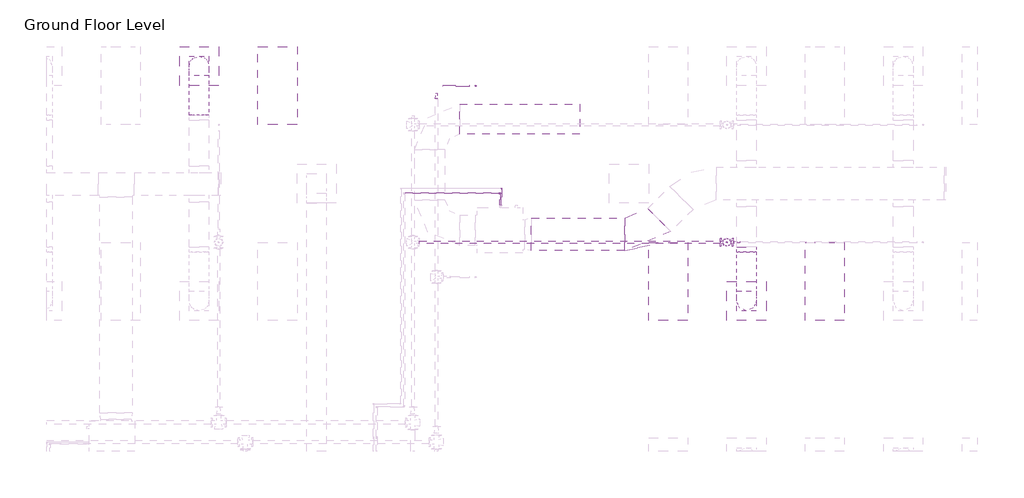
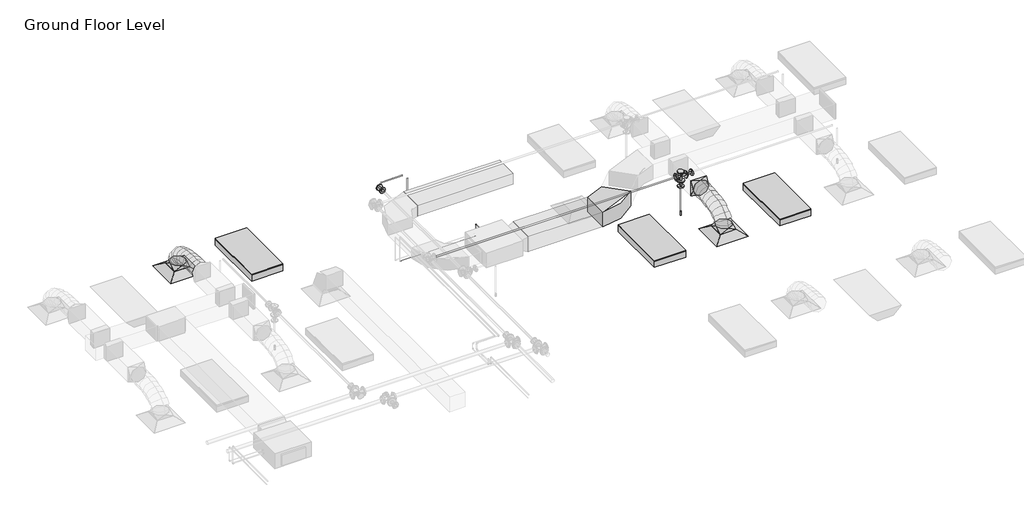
# One storey, part 72 of 74: 9 pipe segments, 8 pipe fittings, 4 duct fittings, 4 duct segments, 3 light fixtures, 2 air terminals, 2 fire suppression terminals.
"""IFC4 building model written with IfcOpenShell, lengths in millimetres."""

from ifc_helpers import new_model, si_unit, point, frame, frame_2d, origin, place, context, project, spatial, polyline, circle_curve, ellipse_curve, trimmed, segment, composite_curve, outline, extrude, transform, mapped, element, save
from ifc_brep_helpers import plane_surface, cylinder_surface, advanced_brep
from components import m_return_diffuser_600_x_600_face_300_x_300_connection_ff221211, m_rectangular_elbow_radius_1_5_w_acc56c25, m_rectangular_to_round_transition_angle_45_degree_641efff0, m_sprinkler_dry_pendent_hosted_15_mm_dry_pendent_9bda8e11, m_sprinkler_pendent_15_mm_pendent_06fcbd8e, m_troffer_light_parabolic_rectangular1_0600x1200mm_4_lamp_86473d4a, m_elbow_generic_standard_a088f956, m_elbow_generic_standard_2a704253, m_reducer_flanged_cs_class_150_standard_ccf252ad, m_tee_round_base_flanged_cs_class_150_standard_7e5987a1

model = new_model("IFC4")

# Units and contexts
model_context = context("Model", 3, world=origin())
ifc_project = project(units=[si_unit("LENGTHUNIT", "METRE", prefix="MILLI")], contexts=[model_context])

# Site, building, storey
site = spatial("IfcSite", under=ifc_project)
building = spatial("IfcBuilding", under=site)
storey = spatial("IfcBuildingStorey", under=building, Name="Ground Floor Level", Elevation=900.0)

# Air terminals
placement = place(None, origin())
m_return_diffuser_600_x_600_face_300_x_300_connection_shape = m_return_diffuser_600_x_600_face_300_x_300_connection_ff221211(model_context)
element("IfcAirTerminal", 1, ObjectType="M_Supply Diffuser : 600 x 600 Face 300 x 300 Connection", at=placement, inside=storey, context=model_context, shape_type="MappedRepresentation", body=[
    mapped(m_return_diffuser_600_x_600_face_300_x_300_connection_shape, transform((2362.7672395, 20535.2153534, 3650.0), x_axis=(1.0, 0.0, 0.0), y_axis=(0.0, 1.0, 0.0), z_axis=(0.0, 0.0, 1.0))),
])
element("IfcAirTerminal", 2, ObjectType="M_Supply Diffuser : 600 x 600 Face 300 x 300 Connection", at=placement, inside=storey, context=model_context, shape_type="MappedRepresentation", body=[
    mapped(m_return_diffuser_600_x_600_face_300_x_300_connection_shape, transform((10742.7672395, 16935.2153534, 3650.0), x_axis=(1.0, 0.0, 0.0), y_axis=(0.0, 1.0, 0.0), z_axis=(0.0, 0.0, 1.0))),
])

# Duct fittings
m_rectangular_elbow_radius_1_5_w_shape = m_rectangular_elbow_radius_1_5_w_acc56c25(model_context)
element("IfcDuctFitting", 3, ObjectType="M_Rectangular Elbow - Radius : 1.5 W", at=placement, inside=storey, context=model_context, shape_type="MappedRepresentation", body=[
    mapped(m_rectangular_elbow_radius_1_5_w_shape, transform((9187.6927358, 17956.1779527, 4100.0047224), x_axis=(0.9999999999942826, 0.0, -3.3815582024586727e-06), y_axis=(-9.063610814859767e-12, 0.9999999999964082, -2.680306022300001e-06), z_axis=(3.3815582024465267e-06, 2.6803060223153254e-06, 0.9999999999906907))),
])
m_rectangular_to_round_transition_angle_45_degree_shape = m_rectangular_to_round_transition_angle_45_degree_641efff0(model_context)
element("IfcDuctFitting", 4, ObjectType="M_Rectangular to Round Transition - Angle : 45 Degree", at=placement, inside=storey, context=model_context, shape_type="MappedRepresentation", body=[
    mapped(m_rectangular_to_round_transition_angle_45_degree_shape, transform((2362.7672395, 20535.2153534, 3751.6), x_axis=(0.0, 0.0, 1.0), y_axis=(-1.0, 0.0, 0.0), z_axis=(0.0, -1.0, 0.0))),
])
element("IfcDuctFitting", 5, ObjectType="M_Rectangular to Round Transition - Angle : 45 Degree", at=placement, inside=storey, context=model_context, shape_type="MappedRepresentation", body=[
    mapped(m_rectangular_to_round_transition_angle_45_degree_shape, transform((10742.7672395, 16935.2153534, 3751.6), x_axis=(0.0, 0.0, 1.0), y_axis=(-1.0, 0.0, 0.0), z_axis=(0.0, -1.0, 0.0))),
])
element("IfcDuctFitting", 6, ObjectType="M_Rectangular to Round Transition - Angle : 45 Degree", at=placement, inside=storey, context=model_context, shape_type="MappedRepresentation", body=[
    mapped(m_rectangular_to_round_transition_angle_45_degree_shape, transform((10742.7672395, 17762.5512847, 4100.0), x_axis=(0.0, -1.0, 0.0), y_axis=(1.0, 0.0, 0.0), z_axis=(0.0, 0.0, 1.0))),
])

# Duct segments
element("IfcDuctSegment", 7, ObjectType="Flex - Round", at=placement, inside=storey, context=model_context, shape_type="AdvancedBrep", body=[
    advanced_brep(
    [(2512.7672395, 20535.2153534, 3826.6), (2362.7672395, 20385.2153534, 3826.6), (2212.7672395, 20535.2153534, 3826.6), (2362.7672395, 20685.2153534, 3826.6), (2512.7672395, 20535.2153534, 3857.937778), (2362.7672395, 20385.2153534, 3832.2944744), (2212.7672395, 20535.2153534, 3857.937778), (2362.7672395, 20685.2153534, 3883.5810816), (2512.7672395, 20518.1993769, 3906.2506017), (2362.7672395, 20384.4614978, 3834.4348684), (2212.7672395, 20518.1993769, 3906.2506017), (2362.7672395, 20651.937256, 3978.0663351), (2512.7672395, 20471.0153769, 3968.7112406), (2362.7672395, 20366.8097489, 3857.8016772), (2212.7672395, 20471.0153769, 3968.7112406), (2362.7672395, 20575.2210049, 4079.6208039), (2512.7672395, 20399.4592477, 4016.0697935), (2362.7672395, 20330.5256195, 3881.8158865), (2212.7672395, 20399.4592477, 4016.0697935), (2362.7672395, 20468.3928758, 4150.3237004), (2512.7672395, 20309.3268835, 4050.4141374), (2362.7672395, 20265.7665876, 3906.4918893), (2212.7672395, 20309.3268835, 4050.4141374), (2362.7672395, 20352.8871794, 4194.3363855), (2512.7672395, 20206.4141786, 4073.8321493), (2362.7672395, 20179.8536975, 3926.0415559), (2212.7672395, 20206.4141786, 4073.8321493), (2362.7672395, 20232.9746597, 4221.6227426), (2512.7672395, 20096.5170273, 4088.411706), (2362.7672395, 20081.3665099, 3939.1074046), (2212.7672395, 20096.5170273, 4088.411706), (2362.7672395, 20111.6675446, 4237.7160075), (2512.7672395, 19985.4313238, 4096.2406846), (2362.7672395, 19977.9262951, 3946.3975526), (2212.7672395, 19985.4313238, 4096.2406846), (2362.7672395, 19992.9363525, 4246.0838166), (2512.7672395, 19878.9529624, 4099.406962), (2362.7672395, 19876.2616453, 3949.4206879), (2212.7672395, 19878.9529624, 4099.406962), (2362.7672395, 19881.6442795, 4249.3932362), (2512.7672395, 19782.8778373, 4099.9984152), (2362.7672395, 19783.8012427, 4249.9955729), (2212.7672395, 19782.8778373, 4099.9984152), (2362.7672395, 19781.9544319, 3950.0012575)],
    [
        (0, 1, circle_curve(frame((2362.7672395, 20535.2153534, 3826.6), z_axis=(0.0, 0.0, -1.0), x_axis=(1.0, 0.0, 0.0)), 150.0)),
        (1, 2, circle_curve(frame((2362.7672395, 20535.2153534, 3826.6), z_axis=(0.0, 0.0, -1.0), x_axis=(1.0, 0.0, 0.0)), 150.0)),
        (2, 3, circle_curve(frame((2362.7672395, 20535.2153534, 3826.6), z_axis=(0.0, 0.0, -1.0), x_axis=(1.0, 0.0, 0.0)), 150.0)),
        (3, 0, circle_curve(frame((2362.7672395, 20535.2153534, 3826.6), z_axis=(0.0, 0.0, -1.0), x_axis=(1.0, 0.0, 0.0)), 150.0)),
        (0, 4),
        (4, 5, ellipse_curve(frame((2362.7672395, 20535.2153534, 3857.937778), z_axis=(0.0, 0.16851066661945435, -0.985699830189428), x_axis=(0.0, -0.985699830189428, -0.16851066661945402)), 152.1761447, 150.0)),
        (5, 1),
        (5, 6, ellipse_curve(frame((2362.7672395, 20535.2153534, 3857.937778), z_axis=(0.0, 0.16851066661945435, -0.985699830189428), x_axis=(0.0, -0.985699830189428, -0.16851066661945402)), 152.1761447, 150.0)),
        (6, 2),
        (6, 7, ellipse_curve(frame((2362.7672395, 20535.2153534, 3857.937778), z_axis=(0.0, 0.16851066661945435, -0.985699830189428), x_axis=(0.0, -0.985699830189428, -0.16851066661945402)), 152.1761447, 150.0)),
        (7, 3),
        (7, 4, ellipse_curve(frame((2362.7672395, 20535.2153534, 3857.937778), z_axis=(0.0, 0.16851066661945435, -0.985699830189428), x_axis=(0.0, -0.985699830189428, -0.16851066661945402)), 152.1761447, 150.0)),
        (4, 8),
        (8, 9, ellipse_curve(frame((2362.7672395, 20518.1993769, 3906.2506017), z_axis=(0.0, 0.4730936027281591, -0.8810121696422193), x_axis=(0.0, -0.8810121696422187, -0.4730936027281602)), 151.8002631, 150.0)),
        (9, 5),
        (9, 10, ellipse_curve(frame((2362.7672395, 20518.1993769, 3906.2506017), z_axis=(0.0, 0.4730936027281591, -0.8810121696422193), x_axis=(0.0, -0.8810121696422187, -0.4730936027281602)), 151.8002631, 150.0)),
        (10, 6),
        (10, 11, ellipse_curve(frame((2362.7672395, 20518.1993769, 3906.2506017), z_axis=(0.0, 0.4730936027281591, -0.8810121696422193), x_axis=(0.0, -0.8810121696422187, -0.4730936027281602)), 151.8002631, 150.0)),
        (11, 7),
        (11, 8, ellipse_curve(frame((2362.7672395, 20518.1993769, 3906.2506017), z_axis=(0.0, 0.4730936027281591, -0.8810121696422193), x_axis=(0.0, -0.8810121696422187, -0.4730936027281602)), 151.8002631, 150.0)),
        (8, 12),
        (12, 13, ellipse_curve(frame((2362.7672395, 20471.0153769, 3968.7112406), z_axis=(0.0, 0.7287895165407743, -0.6847377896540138), x_axis=(0.0, -0.6847377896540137, -0.7287895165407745)), 152.1832584, 150.0)),
        (13, 9),
        (13, 14, ellipse_curve(frame((2362.7672395, 20471.0153769, 3968.7112406), z_axis=(0.0, 0.7287895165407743, -0.6847377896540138), x_axis=(0.0, -0.6847377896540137, -0.7287895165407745)), 152.1832584, 150.0)),
        (14, 10),
        (14, 15, ellipse_curve(frame((2362.7672395, 20471.0153769, 3968.7112406), z_axis=(0.0, 0.7287895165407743, -0.6847377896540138), x_axis=(0.0, -0.6847377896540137, -0.7287895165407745)), 152.1832584, 150.0)),
        (15, 11),
        (15, 12, ellipse_curve(frame((2362.7672395, 20471.0153769, 3968.7112406), z_axis=(0.0, 0.7287895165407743, -0.6847377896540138), x_axis=(0.0, -0.6847377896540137, -0.7287895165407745)), 152.1832584, 150.0)),
        (12, 16),
        (16, 17, ellipse_curve(frame((2362.7672395, 20399.4592477, 4016.0697935), z_axis=(0.0, 0.8895873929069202, -0.4567650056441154), x_axis=(0.0, -0.4567650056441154, -0.8895873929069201)), 150.9170521, 150.0)),
        (17, 13),
        (17, 18, ellipse_curve(frame((2362.7672395, 20399.4592477, 4016.0697935), z_axis=(0.0, 0.8895873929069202, -0.4567650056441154), x_axis=(0.0, -0.4567650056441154, -0.8895873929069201)), 150.9170521, 150.0)),
        (18, 14),
        (18, 19, ellipse_curve(frame((2362.7672395, 20399.4592477, 4016.0697935), z_axis=(0.0, 0.8895873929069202, -0.4567650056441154), x_axis=(0.0, -0.4567650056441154, -0.8895873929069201)), 150.9170521, 150.0)),
        (19, 15),
        (19, 16, ellipse_curve(frame((2362.7672395, 20399.4592477, 4016.0697935), z_axis=(0.0, 0.8895873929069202, -0.4567650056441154), x_axis=(0.0, -0.4567650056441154, -0.8895873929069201)), 150.9170521, 150.0)),
        (16, 20),
        (20, 21, ellipse_curve(frame((2362.7672395, 20309.3268835, 4050.4141374), z_axis=(0.0, 0.9571212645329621, -0.2896875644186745), x_axis=(0.0, -0.28968756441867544, -0.9571212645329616)), 150.3699202, 150.0)),
        (21, 17),
        (21, 22, ellipse_curve(frame((2362.7672395, 20309.3268835, 4050.4141374), z_axis=(0.0, 0.9571212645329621, -0.2896875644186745), x_axis=(0.0, -0.28968756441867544, -0.9571212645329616)), 150.3699202, 150.0)),
        (22, 18),
        (22, 23, ellipse_curve(frame((2362.7672395, 20309.3268835, 4050.4141374), z_axis=(0.0, 0.9571212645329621, -0.2896875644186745), x_axis=(0.0, -0.28968756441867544, -0.9571212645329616)), 150.3699202, 150.0)),
        (23, 19),
        (23, 20, ellipse_curve(frame((2362.7672395, 20309.3268835, 4050.4141374), z_axis=(0.0, 0.9571212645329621, -0.2896875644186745), x_axis=(0.0, -0.28968756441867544, -0.9571212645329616)), 150.3699202, 150.0)),
        (20, 24),
        (24, 25, ellipse_curve(frame((2362.7672395, 20206.4141786, 4073.8321493), z_axis=(0.0, 0.9842318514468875, -0.17688318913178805), x_axis=(0.0, -0.17688318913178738, -0.9842318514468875)), 150.1583119, 150.0)),
        (25, 21),
        (25, 26, ellipse_curve(frame((2362.7672395, 20206.4141786, 4073.8321493), z_axis=(0.0, 0.9842318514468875, -0.17688318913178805), x_axis=(0.0, -0.17688318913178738, -0.9842318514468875)), 150.1583119, 150.0)),
        (26, 22),
        (26, 27, ellipse_curve(frame((2362.7672395, 20206.4141786, 4073.8321493), z_axis=(0.0, 0.9842318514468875, -0.17688318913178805), x_axis=(0.0, -0.17688318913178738, -0.9842318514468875)), 150.1583119, 150.0)),
        (27, 23),
        (27, 24, ellipse_curve(frame((2362.7672395, 20206.4141786, 4073.8321493), z_axis=(0.0, 0.9842318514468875, -0.17688318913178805), x_axis=(0.0, -0.17688318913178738, -0.9842318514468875)), 150.1583119, 150.0)),
        (24, 28),
        (28, 29, ellipse_curve(frame((2362.7672395, 20096.5170273, 4088.411706), z_axis=(0.0, 0.9948909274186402, -0.10095564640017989), x_axis=(0.0, -0.10095564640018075, -0.99489092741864)), 150.0710252, 150.0)),
        (29, 25),
        (29, 30, ellipse_curve(frame((2362.7672395, 20096.5170273, 4088.411706), z_axis=(0.0, 0.9948909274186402, -0.10095564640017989), x_axis=(0.0, -0.10095564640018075, -0.99489092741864)), 150.0710252, 150.0)),
        (30, 26),
        (30, 31, ellipse_curve(frame((2362.7672395, 20096.5170273, 4088.411706), z_axis=(0.0, 0.9948909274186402, -0.10095564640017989), x_axis=(0.0, -0.10095564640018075, -0.99489092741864)), 150.0710252, 150.0)),
        (31, 27),
        (31, 28, ellipse_curve(frame((2362.7672395, 20096.5170273, 4088.411706), z_axis=(0.0, 0.9948909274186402, -0.10095564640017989), x_axis=(0.0, -0.10095564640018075, -0.99489092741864)), 150.0710252, 150.0)),
        (28, 32),
        (32, 33, ellipse_curve(frame((2362.7672395, 19985.4313238, 4096.2406846), z_axis=(0.0, 0.9987480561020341, -0.05002319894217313), x_axis=(0.0, -0.050023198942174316, -0.9987480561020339)), 150.0309623, 150.0)),
        (33, 29),
        (33, 34, ellipse_curve(frame((2362.7672395, 19985.4313238, 4096.2406846), z_axis=(0.0, 0.9987480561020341, -0.05002319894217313), x_axis=(0.0, -0.050023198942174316, -0.9987480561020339)), 150.0309623, 150.0)),
        (34, 30),
        (34, 35, ellipse_curve(frame((2362.7672395, 19985.4313238, 4096.2406846), z_axis=(0.0, 0.9987480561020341, -0.05002319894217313), x_axis=(0.0, -0.050023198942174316, -0.9987480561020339)), 150.0309623, 150.0)),
        (35, 31),
        (35, 32, ellipse_curve(frame((2362.7672395, 19985.4313238, 4096.2406846), z_axis=(0.0, 0.9987480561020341, -0.05002319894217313), x_axis=(0.0, -0.050023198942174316, -0.9987480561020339)), 150.0309623, 150.0)),
        (32, 36),
        (36, 37, ellipse_curve(frame((2362.7672395, 19878.9529624, 4099.406962), z_axis=(0.0, 0.99983904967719, -0.017940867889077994), x_axis=(0.0, -0.017940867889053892, -0.9998390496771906)), 150.0104184, 150.0)),
        (37, 33),
        (37, 38, ellipse_curve(frame((2362.7672395, 19878.9529624, 4099.406962), z_axis=(0.0, 0.99983904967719, -0.017940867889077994), x_axis=(0.0, -0.017940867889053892, -0.9998390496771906)), 150.0104184, 150.0)),
        (38, 34),
        (38, 39, ellipse_curve(frame((2362.7672395, 19878.9529624, 4099.406962), z_axis=(0.0, 0.99983904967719, -0.017940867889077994), x_axis=(0.0, -0.017940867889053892, -0.9998390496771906)), 150.0104184, 150.0)),
        (39, 35),
        (39, 36, ellipse_curve(frame((2362.7672395, 19878.9529624, 4099.406962), z_axis=(0.0, 0.99983904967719, -0.017940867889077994), x_axis=(0.0, -0.017940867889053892, -0.9998390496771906)), 150.0104184, 150.0)),
        (40, 41, circle_curve(frame((2362.7672395, 19782.8778373, 4099.9984152), z_axis=(0.0, -0.9999810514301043, 0.006156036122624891), x_axis=(1.0, 0.0, 0.0)), 150.0)),
        (41, 42, circle_curve(frame((2362.7672395, 19782.8778373, 4099.9984152), z_axis=(0.0, -0.9999810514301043, 0.006156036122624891), x_axis=(1.0, 0.0, 0.0)), 150.0)),
        (42, 43, circle_curve(frame((2362.7672395, 19782.8778373, 4099.9984152), z_axis=(0.0, -0.9999810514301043, 0.006156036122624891), x_axis=(1.0, 0.0, 0.0)), 150.0)),
        (43, 40, circle_curve(frame((2362.7672395, 19782.8778373, 4099.9984152), z_axis=(0.0, -0.9999810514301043, 0.006156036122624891), x_axis=(1.0, 0.0, 0.0)), 150.0)),
        (36, 40),
        (43, 37),
        (42, 38),
        (41, 39),
    ],
    [
        plane_surface(frame((2362.7672395, 20385.2153534, 3826.6), z_axis=(0.0, 0.0, -1.0), x_axis=(1.0, 0.0, 0.0))),
        cylinder_surface(frame((2362.7672395, 20535.2153534, 3826.6), z_axis=(0.0, 0.0, -1.0), x_axis=(1.0, 0.0, 0.0)), 150.0),
        cylinder_surface(frame((2362.7672395, 20535.2153534, 3857.937778), z_axis=(0.0, 0.3322018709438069, -0.9432083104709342), x_axis=(1.0, 0.0, 0.0)), 150.0),
        cylinder_surface(frame((2362.7672395, 20518.1993769, 3906.2506017), z_axis=(0.0, 0.6027641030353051, -0.7979194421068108), x_axis=(1.0, 0.0, 0.0)), 150.0),
        cylinder_surface(frame((2362.7672395, 20471.0153769, 3968.7112406), z_axis=(0.0, 0.8339041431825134, -0.5519093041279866), x_axis=(1.0, 0.0, 0.0)), 150.0),
        cylinder_surface(frame((2362.7672395, 20399.4592477, 4016.0697935), z_axis=(0.0, 0.9344594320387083, -0.3560696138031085), x_axis=(1.0, 0.0, 0.0)), 150.0),
        cylinder_surface(frame((2362.7672395, 20309.3268835, 4050.4141374), z_axis=(0.0, 0.9750739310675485, -0.22188021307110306), x_axis=(1.0, 0.0, 0.0)), 150.0),
        cylinder_surface(frame((2362.7672395, 20206.4141786, 4073.8321493), z_axis=(0.0, 0.9913144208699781, -0.13151318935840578), x_axis=(1.0, 0.0, 0.0)), 150.0),
        cylinder_surface(frame((2362.7672395, 20096.5170273, 4088.411706), z_axis=(0.0, 0.9975257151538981, -0.07030254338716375), x_axis=(1.0, 0.0, 0.0)), 150.0),
        cylinder_surface(frame((2362.7672395, 19985.4313238, 4096.2406846), z_axis=(0.0, 0.9995581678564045, -0.029723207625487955), x_axis=(1.0, 0.0, 0.0)), 150.0),
        plane_surface(frame((2362.7672395, 19781.9544319, 3950.0012575), z_axis=(0.0, -0.9999810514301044, 0.006156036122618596), x_axis=(1.0, 0.0, 0.0))),
        cylinder_surface(frame((2362.7672395, 19878.9529624, 4099.406962), z_axis=(0.0, 0.9999810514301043, -0.006156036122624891), x_axis=(1.0, 0.0, 0.0)), 150.0),
    ],
    [
        (0, [[1, 2, 3, 4]]),
        (1, [[-1, 5, 6, 7]]),
        (1, [[-2, -7, 8, 9]]),
        (1, [[-3, -9, 10, 11]]),
        (1, [[-4, -11, 12, -5]]),
        (2, [[-6, 13, 14, 15]]),
        (2, [[-8, -15, 16, 17]]),
        (2, [[-10, -17, 18, 19]]),
        (2, [[-12, -19, 20, -13]]),
        (3, [[-14, 21, 22, 23]]),
        (3, [[-16, -23, 24, 25]]),
        (3, [[-18, -25, 26, 27]]),
        (3, [[-20, -27, 28, -21]]),
        (4, [[-22, 29, 30, 31]]),
        (4, [[-24, -31, 32, 33]]),
        (4, [[-26, -33, 34, 35]]),
        (4, [[-28, -35, 36, -29]]),
        (5, [[-30, 37, 38, 39]]),
        (5, [[-32, -39, 40, 41]]),
        (5, [[-34, -41, 42, 43]]),
        (5, [[-36, -43, 44, -37]]),
        (6, [[-38, 45, 46, 47]]),
        (6, [[-40, -47, 48, 49]]),
        (6, [[-42, -49, 50, 51]]),
        (6, [[-44, -51, 52, -45]]),
        (7, [[-46, 53, 54, 55]]),
        (7, [[-48, -55, 56, 57]]),
        (7, [[-50, -57, 58, 59]]),
        (7, [[-52, -59, 60, -53]]),
        (8, [[-54, 61, 62, 63]]),
        (8, [[-56, -63, 64, 65]]),
        (8, [[-58, -65, 66, 67]]),
        (8, [[-60, -67, 68, -61]]),
        (9, [[-62, 69, 70, 71]]),
        (9, [[-64, -71, 72, 73]]),
        (9, [[-66, -73, 74, 75]]),
        (9, [[-68, -75, 76, -69]]),
        (10, [[77, 78, 79, 80]]),
        (11, [[-70, 81, -80, 82]]),
        (11, [[-72, -82, -79, 83]]),
        (11, [[-74, -83, -78, 84]]),
        (11, [[-76, -84, -77, -81]]),
    ],
),
])
element("IfcDuctSegment", 8, ObjectType="Flex - Round", at=placement, inside=storey, context=model_context, shape_type="AdvancedBrep", body=[
    advanced_brep(
    [(10892.7672395, 16935.2153534, 3826.6), (10742.7672395, 16785.2153534, 3826.6), (10592.7672395, 16935.2153534, 3826.6), (10742.7672395, 17085.2153534, 3826.6), (10892.7672395, 16935.2153534, 3857.9377114), (10742.7672395, 16785.2153534, 3883.5809337), (10592.7672395, 16935.2153534, 3857.9377114), (10742.7672395, 17085.2153534, 3832.2944892), (10892.7672395, 16952.2312859, 3906.2505728), (10742.7672395, 16818.493307, 3978.0660967), (10592.7672395, 16952.2312859, 3906.2505728), (10742.7672395, 17085.9692649, 3834.435049), (10892.7672395, 16999.4151663, 3968.7113131), (10742.7672395, 16895.209267, 4079.6206026), (10592.7672395, 16999.4151663, 3968.7113131), (10742.7672395, 17103.6210655, 3857.8020236), (10892.7672395, 17070.9711184, 4016.0700639), (10742.7672395, 17002.0370628, 4150.3237489), (10592.7672395, 17070.9711184, 4016.0700639), (10742.7672395, 17139.9051741, 3881.8163788), (10892.7672395, 17161.1032664, 4050.4146682), (10742.7672395, 17117.5425033, 4194.3367758), (10592.7672395, 17161.1032664, 4050.4146682), (10742.7672395, 17204.6640296, 3906.4925606), (10892.7672395, 17264.0157343, 4073.8329691), (10742.7672395, 17237.4548103, 4221.6234841), (10592.7672395, 17264.0157343, 4073.8329691), (10742.7672395, 17290.5766583, 3926.0424542), (10892.7672395, 17373.912646, 4088.4128097), (10742.7672395, 17358.7617437, 4237.7170733), (10592.7672395, 17373.912646, 4088.4128097), (10742.7672395, 17389.0635483, 3939.1085462), (10892.7672395, 17484.9981256, 4096.242033), (10742.7672395, 17477.4927975, 4246.085151), (10592.7672395, 17484.9981256, 4096.242033), (10742.7672395, 17492.5034538, 3946.398915), (10892.7672395, 17591.4762972, 4099.4084821), (10742.7672395, 17588.7848041, 4249.394754), (10592.7672395, 17591.4762972, 4099.4084821), (10742.7672395, 17594.1677903, 3949.4222102), (10892.7672395, 17687.5512847, 4100.0), (10742.7672395, 17688.4747925, 3950.0028429), (10592.7672395, 17687.5512847, 4100.0), (10742.7672395, 17686.6277768, 4249.9971571)],
    [
        (0, 1, circle_curve(frame((10742.7672395, 16935.2153534, 3826.6), z_axis=(0.0, 0.0, -1.0), x_axis=(1.0, 0.0, 0.0)), 150.0)),
        (1, 2, circle_curve(frame((10742.7672395, 16935.2153534, 3826.6), z_axis=(0.0, 0.0, -1.0), x_axis=(1.0, 0.0, 0.0)), 150.0)),
        (2, 3, circle_curve(frame((10742.7672395, 16935.2153534, 3826.6), z_axis=(0.0, 0.0, -1.0), x_axis=(1.0, 0.0, 0.0)), 150.0)),
        (3, 0, circle_curve(frame((10742.7672395, 16935.2153534, 3826.6), z_axis=(0.0, 0.0, -1.0), x_axis=(1.0, 0.0, 0.0)), 150.0)),
        (0, 4),
        (4, 5, ellipse_curve(frame((10742.7672395, 16935.2153534, 3857.9377114), z_axis=(0.0, -0.16851014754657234, -0.9856999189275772), x_axis=(0.0, 0.9856999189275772, -0.1685101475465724)), 152.176131, 150.0)),
        (5, 1),
        (5, 6, ellipse_curve(frame((10742.7672395, 16935.2153534, 3857.9377114), z_axis=(0.0, -0.16851014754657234, -0.9856999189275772), x_axis=(0.0, 0.9856999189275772, -0.1685101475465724)), 152.176131, 150.0)),
        (6, 2),
        (6, 7, ellipse_curve(frame((10742.7672395, 16935.2153534, 3857.9377114), z_axis=(0.0, -0.16851014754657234, -0.9856999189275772), x_axis=(0.0, 0.9856999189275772, -0.1685101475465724)), 152.176131, 150.0)),
        (7, 3),
        (7, 4, ellipse_curve(frame((10742.7672395, 16935.2153534, 3857.9377114), z_axis=(0.0, -0.16851014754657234, -0.9856999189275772), x_axis=(0.0, 0.9856999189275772, -0.1685101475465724)), 152.176131, 150.0)),
        (4, 8),
        (8, 9, ellipse_curve(frame((10742.7672395, 16952.2312859, 3906.2505728), z_axis=(0.0, -0.47309225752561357, -0.8810128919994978), x_axis=(0.0, 0.8810128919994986, -0.47309225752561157)), 151.8002519, 150.0)),
        (9, 5),
        (9, 10, ellipse_curve(frame((10742.7672395, 16952.2312859, 3906.2505728), z_axis=(0.0, -0.47309225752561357, -0.8810128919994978), x_axis=(0.0, 0.8810128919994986, -0.47309225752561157)), 151.8002519, 150.0)),
        (10, 6),
        (10, 11, ellipse_curve(frame((10742.7672395, 16952.2312859, 3906.2505728), z_axis=(0.0, -0.47309225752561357, -0.8810128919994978), x_axis=(0.0, 0.8810128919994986, -0.47309225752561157)), 151.8002519, 150.0)),
        (11, 7),
        (11, 8, ellipse_curve(frame((10742.7672395, 16952.2312859, 3906.2505728), z_axis=(0.0, -0.47309225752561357, -0.8810128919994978), x_axis=(0.0, 0.8810128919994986, -0.47309225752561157)), 151.8002519, 150.0)),
        (8, 12),
        (12, 13, ellipse_curve(frame((10742.7672395, 16999.4151663, 3968.7113131), z_axis=(0.0, -0.7287877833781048, -0.6847396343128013), x_axis=(0.0, 0.6847396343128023, -0.7287877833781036)), 152.1832446, 150.0)),
        (13, 9),
        (13, 14, ellipse_curve(frame((10742.7672395, 16999.4151663, 3968.7113131), z_axis=(0.0, -0.7287877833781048, -0.6847396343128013), x_axis=(0.0, 0.6847396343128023, -0.7287877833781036)), 152.1832446, 150.0)),
        (14, 10),
        (14, 15, ellipse_curve(frame((10742.7672395, 16999.4151663, 3968.7113131), z_axis=(0.0, -0.7287877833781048, -0.6847396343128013), x_axis=(0.0, 0.6847396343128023, -0.7287877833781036)), 152.1832446, 150.0)),
        (15, 11),
        (15, 12, ellipse_curve(frame((10742.7672395, 16999.4151663, 3968.7113131), z_axis=(0.0, -0.7287877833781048, -0.6847396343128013), x_axis=(0.0, 0.6847396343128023, -0.7287877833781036)), 152.1832446, 150.0)),
        (12, 16),
        (16, 17, ellipse_curve(frame((10742.7672395, 17070.9711184, 4016.0700639), z_axis=(0.0, -0.8895859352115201, -0.45676784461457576), x_axis=(0.0, 0.45676784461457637, -0.8895859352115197)), 150.91705, 150.0)),
        (17, 13),
        (17, 18, ellipse_curve(frame((10742.7672395, 17070.9711184, 4016.0700639), z_axis=(0.0, -0.8895859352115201, -0.45676784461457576), x_axis=(0.0, 0.45676784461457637, -0.8895859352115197)), 150.91705, 150.0)),
        (18, 14),
        (18, 19, ellipse_curve(frame((10742.7672395, 17070.9711184, 4016.0700639), z_axis=(0.0, -0.8895859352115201, -0.45676784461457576), x_axis=(0.0, 0.45676784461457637, -0.8895859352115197)), 150.91705, 150.0)),
        (19, 15),
        (19, 16, ellipse_curve(frame((10742.7672395, 17070.9711184, 4016.0700639), z_axis=(0.0, -0.8895859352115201, -0.45676784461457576), x_axis=(0.0, 0.45676784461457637, -0.8895859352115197)), 150.91705, 150.0)),
        (16, 20),
        (20, 21, ellipse_curve(frame((10742.7672395, 17161.1032664, 4050.4146682), z_axis=(0.0, -0.9571203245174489, -0.2896906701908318), x_axis=(0.0, 0.28969067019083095, -0.9571203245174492)), 150.369921, 150.0)),
        (21, 17),
        (21, 22, ellipse_curve(frame((10742.7672395, 17161.1032664, 4050.4146682), z_axis=(0.0, -0.9571203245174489, -0.2896906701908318), x_axis=(0.0, 0.28969067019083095, -0.9571203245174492)), 150.369921, 150.0)),
        (22, 18),
        (22, 23, ellipse_curve(frame((10742.7672395, 17161.1032664, 4050.4146682), z_axis=(0.0, -0.9571203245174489, -0.2896906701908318), x_axis=(0.0, 0.28969067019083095, -0.9571203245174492)), 150.369921, 150.0)),
        (23, 19),
        (23, 20, ellipse_curve(frame((10742.7672395, 17161.1032664, 4050.4146682), z_axis=(0.0, -0.9571203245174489, -0.2896906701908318), x_axis=(0.0, 0.28969067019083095, -0.9571203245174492)), 150.369921, 150.0)),
        (20, 24),
        (24, 25, ellipse_curve(frame((10742.7672395, 17264.0157343, 4073.8329691), z_axis=(0.0, -0.9842313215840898, -0.17688613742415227), x_axis=(0.0, 0.17688613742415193, -0.9842313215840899)), 150.1583131, 150.0)),
        (25, 21),
        (25, 26, ellipse_curve(frame((10742.7672395, 17264.0157343, 4073.8329691), z_axis=(0.0, -0.9842313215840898, -0.17688613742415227), x_axis=(0.0, 0.17688613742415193, -0.9842313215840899)), 150.1583131, 150.0)),
        (26, 22),
        (26, 27, ellipse_curve(frame((10742.7672395, 17264.0157343, 4073.8329691), z_axis=(0.0, -0.9842313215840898, -0.17688613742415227), x_axis=(0.0, 0.17688613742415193, -0.9842313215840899)), 150.1583131, 150.0)),
        (27, 23),
        (27, 24, ellipse_curve(frame((10742.7672395, 17264.0157343, 4073.8329691), z_axis=(0.0, -0.9842313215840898, -0.17688613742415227), x_axis=(0.0, 0.17688613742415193, -0.9842313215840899)), 150.1583131, 150.0)),
        (24, 28),
        (28, 29, ellipse_curve(frame((10742.7672395, 17373.912646, 4088.4128097), z_axis=(0.0, -0.9948906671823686, -0.1009582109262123), x_axis=(0.0, 0.10095821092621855, -0.994890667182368)), 150.0710264, 150.0)),
        (29, 25),
        (29, 30, ellipse_curve(frame((10742.7672395, 17373.912646, 4088.4128097), z_axis=(0.0, -0.9948906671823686, -0.1009582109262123), x_axis=(0.0, 0.10095821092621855, -0.994890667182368)), 150.0710264, 150.0)),
        (30, 26),
        (30, 31, ellipse_curve(frame((10742.7672395, 17373.912646, 4088.4128097), z_axis=(0.0, -0.9948906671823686, -0.1009582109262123), x_axis=(0.0, 0.10095821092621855, -0.994890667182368)), 150.0710264, 150.0)),
        (31, 27),
        (31, 28, ellipse_curve(frame((10742.7672395, 17373.912646, 4088.4128097), z_axis=(0.0, -0.9948906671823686, -0.1009582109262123), x_axis=(0.0, 0.10095821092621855, -0.994890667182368)), 150.0710264, 150.0)),
        (28, 32),
        (32, 33, ellipse_curve(frame((10742.7672395, 17484.9981256, 4096.242033), z_axis=(0.0, -0.9987479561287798, -0.05002519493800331), x_axis=(0.0, 0.05002519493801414, -0.9987479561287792)), 150.0309634, 150.0)),
        (33, 29),
        (33, 34, ellipse_curve(frame((10742.7672395, 17484.9981256, 4096.242033), z_axis=(0.0, -0.9987479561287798, -0.05002519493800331), x_axis=(0.0, 0.05002519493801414, -0.9987479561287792)), 150.0309634, 150.0)),
        (34, 30),
        (34, 35, ellipse_curve(frame((10742.7672395, 17484.9981256, 4096.242033), z_axis=(0.0, -0.9987479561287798, -0.05002519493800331), x_axis=(0.0, 0.05002519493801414, -0.9987479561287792)), 150.0309634, 150.0)),
        (35, 31),
        (35, 32, ellipse_curve(frame((10742.7672395, 17484.9981256, 4096.242033), z_axis=(0.0, -0.9987479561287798, -0.05002519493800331), x_axis=(0.0, 0.05002519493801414, -0.9987479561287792)), 150.0309634, 150.0)),
        (32, 36),
        (36, 37, ellipse_curve(frame((10742.7672395, 17591.4762972, 4099.4084821), z_axis=(0.0, -0.9998390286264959, -0.017942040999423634), x_axis=(0.0, 0.017942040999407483, -0.9998390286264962)), 150.0104193, 150.0)),
        (37, 33),
        (37, 38, ellipse_curve(frame((10742.7672395, 17591.4762972, 4099.4084821), z_axis=(0.0, -0.9998390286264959, -0.017942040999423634), x_axis=(0.0, 0.017942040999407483, -0.9998390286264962)), 150.0104193, 150.0)),
        (38, 34),
        (38, 39, ellipse_curve(frame((10742.7672395, 17591.4762972, 4099.4084821), z_axis=(0.0, -0.9998390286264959, -0.017942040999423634), x_axis=(0.0, 0.017942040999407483, -0.9998390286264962)), 150.0104193, 150.0)),
        (39, 35),
        (39, 36, ellipse_curve(frame((10742.7672395, 17591.4762972, 4099.4084821), z_axis=(0.0, -0.9998390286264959, -0.017942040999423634), x_axis=(0.0, 0.017942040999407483, -0.9998390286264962)), 150.0104193, 150.0)),
        (40, 41, circle_curve(frame((10742.7672395, 17687.5512847, 4100.0), z_axis=(0.0, 0.9999810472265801, 0.006156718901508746), x_axis=(1.0, 0.0, 0.0)), 150.0)),
        (41, 42, circle_curve(frame((10742.7672395, 17687.5512847, 4100.0), z_axis=(0.0, 0.9999810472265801, 0.006156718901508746), x_axis=(1.0, 0.0, 0.0)), 150.0)),
        (42, 43, circle_curve(frame((10742.7672395, 17687.5512847, 4100.0), z_axis=(0.0, 0.9999810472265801, 0.006156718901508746), x_axis=(1.0, 0.0, 0.0)), 150.0)),
        (43, 40, circle_curve(frame((10742.7672395, 17687.5512847, 4100.0), z_axis=(0.0, 0.9999810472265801, 0.006156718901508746), x_axis=(1.0, 0.0, 0.0)), 150.0)),
        (36, 40),
        (43, 37),
        (42, 38),
        (41, 39),
    ],
    [
        plane_surface(frame((10742.7672395, 16785.2153534, 3826.6), z_axis=(0.0, 0.0, -1.0), x_axis=(1.0, 0.0, 0.0))),
        cylinder_surface(frame((10742.7672395, 16935.2153534, 3826.6), z_axis=(0.0, 0.0, -1.0), x_axis=(1.0, 0.0, 0.0)), 150.0),
        cylinder_surface(frame((10742.7672395, 16935.2153534, 3857.9377114), z_axis=(0.0, -0.3322008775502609, -0.9432086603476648), x_axis=(1.0, 0.0, 0.0)), 150.0),
        cylinder_surface(frame((10742.7672395, 16952.2312859, 3906.2505728), z_axis=(0.0, -0.6027625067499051, -0.7979206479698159), x_axis=(1.0, 0.0, 0.0)), 150.0),
        cylinder_surface(frame((10742.7672395, 16999.4151663, 3968.7113131), z_axis=(0.0, -0.833902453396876, -0.5519118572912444), x_axis=(1.0, 0.0, 0.0)), 150.0),
        cylinder_surface(frame((10742.7672395, 17070.9711184, 4016.0700639), z_axis=(0.0, -0.9344582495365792, -0.35607271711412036), x_axis=(1.0, 0.0, 0.0)), 150.0),
        cylinder_surface(frame((10742.7672395, 17161.1032664, 4050.4146682), z_axis=(0.0, -0.9750732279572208, -0.22188330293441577), x_axis=(1.0, 0.0, 0.0)), 150.0),
        cylinder_surface(frame((10742.7672395, 17264.0157343, 4073.8329691), z_axis=(0.0, -0.9913140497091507, -0.13151598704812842), x_axis=(1.0, 0.0, 0.0)), 150.0),
        cylinder_surface(frame((10742.7672395, 17373.912646, 4088.4128097), z_axis=(0.0, -0.9975255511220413, -0.07030487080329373), x_axis=(1.0, 0.0, 0.0)), 150.0),
        cylinder_surface(frame((10742.7672395, 17484.9981256, 4096.242033), z_axis=(0.0, -0.9995581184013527, -0.02972487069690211), x_axis=(1.0, 0.0, 0.0)), 150.0),
        plane_surface(frame((10742.7672395, 17686.6277768, 4249.9971571), z_axis=(0.0, 0.9999810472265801, 0.0061567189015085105), x_axis=(1.0, 0.0, 0.0))),
        cylinder_surface(frame((10742.7672395, 17591.4762972, 4099.4084821), z_axis=(0.0, -0.9999810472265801, -0.006156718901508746), x_axis=(1.0, 0.0, 0.0)), 150.0),
    ],
    [
        (0, [[1, 2, 3, 4]]),
        (1, [[-1, 5, 6, 7]]),
        (1, [[-2, -7, 8, 9]]),
        (1, [[-3, -9, 10, 11]]),
        (1, [[-4, -11, 12, -5]]),
        (2, [[-6, 13, 14, 15]]),
        (2, [[-8, -15, 16, 17]]),
        (2, [[-10, -17, 18, 19]]),
        (2, [[-12, -19, 20, -13]]),
        (3, [[-14, 21, 22, 23]]),
        (3, [[-16, -23, 24, 25]]),
        (3, [[-18, -25, 26, 27]]),
        (3, [[-20, -27, 28, -21]]),
        (4, [[-22, 29, 30, 31]]),
        (4, [[-24, -31, 32, 33]]),
        (4, [[-26, -33, 34, 35]]),
        (4, [[-28, -35, 36, -29]]),
        (5, [[-30, 37, 38, 39]]),
        (5, [[-32, -39, 40, 41]]),
        (5, [[-34, -41, 42, 43]]),
        (5, [[-36, -43, 44, -37]]),
        (6, [[-38, 45, 46, 47]]),
        (6, [[-40, -47, 48, 49]]),
        (6, [[-42, -49, 50, 51]]),
        (6, [[-44, -51, 52, -45]]),
        (7, [[-46, 53, 54, 55]]),
        (7, [[-48, -55, 56, 57]]),
        (7, [[-50, -57, 58, 59]]),
        (7, [[-52, -59, 60, -53]]),
        (8, [[-54, 61, 62, 63]]),
        (8, [[-56, -63, 64, 65]]),
        (8, [[-58, -65, 66, 67]]),
        (8, [[-60, -67, 68, -61]]),
        (9, [[-62, 69, 70, 71]]),
        (9, [[-64, -71, 72, 73]]),
        (9, [[-66, -73, 74, 75]]),
        (9, [[-68, -75, 76, -69]]),
        (10, [[77, 78, 79, 80]]),
        (11, [[-70, 81, -80, 82]]),
        (11, [[-72, -82, -79, 83]]),
        (11, [[-74, -83, -78, 84]]),
        (11, [[-76, -84, -77, -81]]),
    ],
),
])
element("IfcDuctSegment", 9, ObjectType="Radius Elbows / Taps", at=placement, inside=storey, context=model_context, shape_type="SweptSolid", body=[
    extrude(outline(polyline([(7447.693178, 17706.1779527), (7447.693178, 18206.1779527), (8877.032564, 18206.1779527), (8877.032564, 17706.1779527), (7447.693178, 17706.1779527)])), frame((0.0, 0.0, 3950.0057729), z_axis=(0.0, 0.0, 1.0), x_axis=(1.0, 0.0, 0.0)), (0.0, 0.0, 1.0), 300.0),
])
element("IfcDuctSegment", 10, ObjectType="Radius Elbows / Taps", at=placement, inside=storey, context=model_context, shape_type="SweptSolid", body=[
    extrude(outline(polyline([(6355.2889492, 19488.7408949), (6355.2889492, 19950.6158949), (8193.4139492, 19950.6158949), (8193.4139492, 19488.7408949), (6355.2889492, 19488.7408949)])), frame((0.0, 0.0, 3968.1432729), z_axis=(0.0, 0.0, 1.0), x_axis=(1.0, 0.0, 0.0)), (0.0, 0.0, 1.0), 214.3),
])

# Fire suppression terminals
m_sprinkler_dry_pendent_hosted_15_mm_dry_pendent_shape = m_sprinkler_dry_pendent_hosted_15_mm_dry_pendent_9bda8e11(model_context)
element("IfcFireSuppressionTerminal", 11, ObjectType="M_Sprinkler - Dry - Pendent - Hosted : 15 mm Dry Pendent", at=placement, inside=storey, context=model_context, shape_type="MappedRepresentation", body=[
    mapped(m_sprinkler_dry_pendent_hosted_15_mm_dry_pendent_shape, transform((10442.7672395, 17835.2153534, 3650.0), x_axis=(1.0, 0.0, 0.0), y_axis=(0.0, -1.0, 0.0), z_axis=(0.0, 0.0, -1.0))),
])
m_sprinkler_pendent_15_mm_pendent_shape = m_sprinkler_pendent_15_mm_pendent_06fcbd8e(model_context)
element("IfcFireSuppressionTerminal", 12, ObjectType="M_Sprinkler - Pendent : 15 mm Pendent", at=placement, inside=storey, context=model_context, shape_type="MappedRepresentation", body=[
    mapped(m_sprinkler_pendent_15_mm_pendent_shape, transform((6592.5481019, 20231.639515, 3650.0), x_axis=(1.0, 0.0, 0.0), y_axis=(0.0, 1.0, 0.0), z_axis=(0.0, 0.0, 1.0))),
])

# Light fixtures
m_troffer_light_parabolic_rectangular1_0600x1200mm_4_lamp_shape = m_troffer_light_parabolic_rectangular1_0600x1200mm_4_lamp_86473d4a(model_context)
element("IfcLightFixture", 13, ObjectType="M_Troffer Light - Parabolic Rectangular1 : 0600x1200mm(4 Lamp) - 277V 2", at=placement, inside=storey, context=model_context, shape_type="MappedRepresentation", body=[
    mapped(m_troffer_light_parabolic_rectangular1_0600x1200mm_4_lamp_shape, transform((3503.3013074, 20253.918855, 3650.0), x_axis=(0.0, 1.0, 0.0), y_axis=(-1.0, 0.0, 0.0), z_axis=(0.0, 0.0, 1.0))),
])
element("IfcLightFixture", 14, ObjectType="M_Troffer Light - Parabolic Rectangular1 : 0600x1200mm(4 Lamp) - 277V 2", at=placement, inside=storey, context=model_context, shape_type="MappedRepresentation", body=[
    mapped(m_troffer_light_parabolic_rectangular1_0600x1200mm_4_lamp_shape, transform((9483.3013074, 17253.918855, 3650.0), x_axis=(0.0, 1.0, 0.0), y_axis=(-1.0, 0.0, 0.0), z_axis=(0.0, 0.0, 1.0))),
])
element("IfcLightFixture", 15, ObjectType="M_Troffer Light - Parabolic Rectangular1 : 0600x1200mm(4 Lamp) - 277V 2", at=placement, inside=storey, context=model_context, shape_type="MappedRepresentation", body=[
    mapped(m_troffer_light_parabolic_rectangular1_0600x1200mm_4_lamp_shape, transform((11883.3013074, 17253.918855, 3650.0), x_axis=(0.0, 1.0, 0.0), y_axis=(-1.0, 0.0, 0.0), z_axis=(0.0, 0.0, 1.0))),
])

# Pipe fittings
m_elbow_generic_standard_shape = m_elbow_generic_standard_a088f956(model_context)
element("IfcPipeFitting", 16, ObjectType="M_Elbow - Generic : Standard", at=placement, inside=storey, context=model_context, shape_type="MappedRepresentation", body=[
    mapped(m_elbow_generic_standard_shape, transform((6968.8139492, 18590.9278534, 4034.0932729), x_axis=(0.0, 1.0, 0.0), y_axis=(0.0, 0.0, -1.0), z_axis=(-1.0, 0.0, 0.0))),
])
element("IfcPipeFitting", 17, ObjectType="M_Elbow - Generic : Standard", at=placement, inside=storey, context=model_context, shape_type="MappedRepresentation", body=[
    mapped(m_elbow_generic_standard_shape, transform((6968.8139492, 18590.9278534, 3900.0), x_axis=(0.0, 0.0, -1.0), y_axis=(-1.0, 0.0, 0.0), z_axis=(0.0, 1.0, 0.0))),
])
m_elbow_generic_standard_2_shape = m_elbow_generic_standard_2a704253(model_context)
element("IfcPipeFitting", 18, ObjectType="M_Elbow - Generic : Standard", at=placement, inside=storey, context=model_context, shape_type="MappedRepresentation", body=[
    mapped(m_elbow_generic_standard_2_shape, transform((6993.8139492, 18659.0778534, 4084.8932729), x_axis=(0.0, 1.0, 0.0), y_axis=(0.0, 0.0, -1.0), z_axis=(-1.0, 0.0, 0.0))),
])
element("IfcPipeFitting", 19, ObjectType="M_Elbow - Generic : Standard", at=placement, inside=storey, context=model_context, shape_type="MappedRepresentation", body=[
    mapped(m_elbow_generic_standard_2_shape, transform((6993.8139492, 18659.0778536, 3900.0), x_axis=(0.0, 0.0, -1.0), y_axis=(-1.0, 0.0, 0.0), z_axis=(0.0, 1.0, 0.0))),
])
m_reducer_flanged_cs_class_150_standard_shape = m_reducer_flanged_cs_class_150_standard_ccf252ad(model_context)
element("IfcPipeFitting", 20, ObjectType="M_Reducer - Flanged - CS - Class 150 : Standard", at=placement, inside=storey, context=model_context, shape_type="MappedRepresentation", body=[
    mapped(m_reducer_flanged_cs_class_150_standard_shape, transform((5997.057812, 20024.6309212, 4290.0), x_axis=(0.0, 1.0, 0.0), y_axis=(-1.0, 0.0, 0.0), z_axis=(0.0, 0.0, 1.0))),
])
element("IfcPipeFitting", 21, ObjectType="M_Reducer - Flanged - CS - Class 150 : Standard", at=placement, inside=storey, context=model_context, shape_type="MappedRepresentation", body=[
    mapped(m_reducer_flanged_cs_class_150_standard_shape, transform((10543.4758332, 17835.2153534, 4360.0), x_axis=(1.0, 0.0, 0.0), y_axis=(0.0, 0.0, 1.0), z_axis=(0.0, -1.0, 0.0))),
])
element("IfcPipeFitting", 22, ObjectType="M_Reducer - Flanged - CS - Class 150 : Standard", at=placement, inside=storey, context=model_context, shape_type="MappedRepresentation", body=[
    mapped(m_reducer_flanged_cs_class_150_standard_shape, transform((10442.7672395, 17835.2153534, 4259.2914062), x_axis=(0.0, 0.0, -1.0), y_axis=(-1.0, 0.0, 0.0), z_axis=(0.0, 1.0, 0.0))),
])
m_tee_round_base_flanged_cs_class_150_standard_shape = m_tee_round_base_flanged_cs_class_150_standard_7e5987a1(model_context)
element("IfcPipeFitting", 23, ObjectType="M_Tee Round Base - Flanged - CS - Class 150 : Standard", at=placement, inside=storey, context=model_context, shape_type="MappedRepresentation", body=[
    mapped(m_tee_round_base_flanged_cs_class_150_standard_shape, transform((10442.7672395, 17835.2153534, 4360.0), x_axis=(1.0, 0.0, 0.0), y_axis=(0.0, 0.0, 1.0), z_axis=(0.0, -1.0, 0.0))),
])

# Pipe segments
element("IfcPipeSegment", 24, ObjectType="Copper", at=placement, inside=storey, context=model_context, shape_type="SweptSolid", body=[
    extrude(outline(composite_curve([segment(trimmed(circle_curve(frame_2d((18590.9278534, 3900.0)), 6.5), [point((18597.4278534, 3900.0))], [point((18590.9278534, 3893.5))], False, "CARTESIAN"), True, "CONTINUOUS"), segment(trimmed(circle_curve(frame_2d((18590.9278534, 3900.0)), 6.5), [point((18590.9278534, 3893.5))], [point((18584.4278534, 3900.0))], False, "CARTESIAN"), True, "CONTINUOUS"), segment(trimmed(circle_curve(frame_2d((18590.9278534, 3900.0)), 6.5), [point((18584.4278534, 3900.0))], [point((18590.9278534, 3906.5))], False, "CARTESIAN"), True, "CONTINUOUS"), segment(trimmed(circle_curve(frame_2d((18590.9278534, 3900.0)), 6.5), [point((18590.9278534, 3906.5))], [point((18597.4278534, 3900.0))], False, "CARTESIAN"), True, "CONTINUOUS")], self_intersect=False)), frame((5516.0550988, 0.0, 0.0), z_axis=(1.0, 0.0, 0.0), x_axis=(0.0, 1.0, 0.0)), (0.0, 0.0, 1.0), 1438.4713505),
])
element("IfcPipeSegment", 25, ObjectType="Copper", at=placement, inside=storey, context=model_context, shape_type="SweptSolid", body=[
    extrude(outline(composite_curve([segment(trimmed(circle_curve(frame_2d((4034.0932729, 6968.8139492)), 6.5), [point((4034.0932729, 6975.3139492))], [point((4040.5932729, 6968.8139492))], False, "CARTESIAN"), True, "CONTINUOUS"), segment(trimmed(circle_curve(frame_2d((4034.0932729, 6968.8139492)), 6.5), [point((4040.5932729, 6968.8139492))], [point((4034.0932729, 6962.3139492))], False, "CARTESIAN"), True, "CONTINUOUS"), segment(trimmed(circle_curve(frame_2d((4034.0932729, 6968.8139492)), 6.5), [point((4034.0932729, 6962.3139492))], [point((4027.5932729, 6968.8139492))], False, "CARTESIAN"), True, "CONTINUOUS"), segment(trimmed(circle_curve(frame_2d((4034.0932729, 6968.8139492)), 6.5), [point((4027.5932729, 6968.8139492))], [point((4034.0932729, 6975.3139492))], False, "CARTESIAN"), True, "CONTINUOUS")], self_intersect=False)), frame((0.0, 18407.7779527, 0.0), z_axis=(0.0, 1.0, 0.0), x_axis=(0.0, 0.0, 1.0)), (0.0, 0.0, 1.0), 168.8624007),
])
element("IfcPipeSegment", 26, ObjectType="Copper", at=placement, inside=storey, context=model_context, shape_type="SweptSolid", body=[
    extrude(outline(composite_curve([segment(trimmed(circle_curve(frame_2d((4084.8932729, 6993.8139492)), 3.35), [point((4084.8932729, 6997.1639492))], [point((4088.2432729, 6993.8139492))], False, "CARTESIAN"), True, "CONTINUOUS"), segment(trimmed(circle_curve(frame_2d((4084.8932729, 6993.8139492)), 3.35), [point((4088.2432729, 6993.8139492))], [point((4084.8932729, 6990.4639492))], False, "CARTESIAN"), True, "CONTINUOUS"), segment(trimmed(circle_curve(frame_2d((4084.8932729, 6993.8139492)), 3.35), [point((4084.8932729, 6990.4639492))], [point((4081.5432729, 6993.8139492))], False, "CARTESIAN"), True, "CONTINUOUS"), segment(trimmed(circle_curve(frame_2d((4084.8932729, 6993.8139492)), 3.35), [point((4081.5432729, 6993.8139492))], [point((4084.8932729, 6997.1639492))], False, "CARTESIAN"), True, "CONTINUOUS")], self_intersect=False)), frame((0.0, 18407.7779527, 0.0), z_axis=(0.0, 1.0, 0.0), x_axis=(0.0, 0.0, 1.0)), (0.0, 0.0, 1.0), 240.1624007),
])
element("IfcPipeSegment", 27, ObjectType="Copper", at=placement, inside=storey, context=model_context, shape_type="SweptSolid", body=[
    extrude(outline(composite_curve([segment(trimmed(circle_curve(frame_2d((6968.8139492, 18590.9278534)), 6.5), [point((6975.3139492, 18590.9278534))], [point((6968.8139492, 18584.4278534))], False, "CARTESIAN"), True, "CONTINUOUS"), segment(trimmed(circle_curve(frame_2d((6968.8139492, 18590.9278534)), 6.5), [point((6968.8139492, 18584.4278534))], [point((6962.3139492, 18590.9278534))], False, "CARTESIAN"), True, "CONTINUOUS"), segment(trimmed(circle_curve(frame_2d((6968.8139492, 18590.9278534)), 6.5), [point((6962.3139492, 18590.9278534))], [point((6968.8139492, 18597.4278534))], False, "CARTESIAN"), True, "CONTINUOUS"), segment(trimmed(circle_curve(frame_2d((6968.8139492, 18590.9278534)), 6.5), [point((6968.8139492, 18597.4278534))], [point((6975.3139492, 18590.9278534))], False, "CARTESIAN"), True, "CONTINUOUS")], self_intersect=False)), frame((0.0, 0.0, 3914.2875), z_axis=(0.0, 0.0, 1.0), x_axis=(1.0, 0.0, 0.0)), (0.0, 0.0, 1.0), 105.5182729),
])
element("IfcPipeSegment", 28, ObjectType="Copper", at=placement, inside=storey, context=model_context, shape_type="SweptSolid", body=[
    extrude(outline(composite_curve([segment(trimmed(circle_curve(frame_2d((6993.8139492, 18659.0778534)), 3.35), [point((6997.1639492, 18659.0778534))], [point((6993.8139492, 18655.7278534))], False, "CARTESIAN"), True, "CONTINUOUS"), segment(trimmed(circle_curve(frame_2d((6993.8139492, 18659.0778534)), 3.35), [point((6993.8139492, 18655.7278534))], [point((6990.4639492, 18659.0778534))], False, "CARTESIAN"), True, "CONTINUOUS"), segment(trimmed(circle_curve(frame_2d((6993.8139492, 18659.0778534)), 3.35), [point((6990.4639492, 18659.0778534))], [point((6993.8139492, 18662.4278534))], False, "CARTESIAN"), True, "CONTINUOUS"), segment(trimmed(circle_curve(frame_2d((6993.8139492, 18659.0778534)), 3.35), [point((6993.8139492, 18662.4278534))], [point((6997.1639492, 18659.0778534))], False, "CARTESIAN"), True, "CONTINUOUS")], self_intersect=False)), frame((0.0, 0.0, 3911.1375), z_axis=(0.0, 0.0, 1.0), x_axis=(1.0, 0.0, 0.0)), (0.0, 0.0, 1.0), 162.6182729),
])
element("IfcPipeSegment", 29, ObjectType="Steel flanged", at=placement, inside=storey, context=model_context, shape_type="SweptSolid", body=[
    extrude(outline(composite_curve([segment(trimmed(circle_curve(frame_2d((6592.5481019, 20231.639515)), 10.668), [point((6581.8801019, 20231.639515))], [point((6592.5481019, 20242.307515))], False, "CARTESIAN"), True, "CONTINUOUS"), segment(trimmed(circle_curve(frame_2d((6592.5481019, 20231.639515)), 10.668), [point((6592.5481019, 20242.307515))], [point((6603.2161019, 20231.639515))], False, "CARTESIAN"), True, "CONTINUOUS"), segment(trimmed(circle_curve(frame_2d((6592.5481019, 20231.639515)), 10.668), [point((6603.2161019, 20231.639515))], [point((6592.5481019, 20220.971515))], False, "CARTESIAN"), True, "CONTINUOUS"), segment(trimmed(circle_curve(frame_2d((6592.5481019, 20231.639515)), 10.668), [point((6592.5481019, 20220.971515))], [point((6581.8801019, 20231.639515))], False, "CARTESIAN"), True, "CONTINUOUS")], self_intersect=False)), frame((0.0, 0.0, 3650.0), z_axis=(0.0, 0.0, 1.0), x_axis=(1.0, 0.0, 0.0)), (0.0, 0.0, 1.0), 546.9914063),
])
element("IfcPipeSegment", 30, ObjectType="Steel flanged", at=placement, inside=storey, context=model_context, shape_type="SweptSolid", body=[
    extrude(outline(composite_curve([segment(trimmed(circle_curve(frame_2d((20231.639515, 4290.0)), 10.668), [point((20242.307515, 4290.0))], [point((20231.639515, 4279.332))], False, "CARTESIAN"), True, "CONTINUOUS"), segment(trimmed(circle_curve(frame_2d((20231.639515, 4290.0)), 10.668), [point((20231.639515, 4279.332))], [point((20220.971515, 4290.0))], False, "CARTESIAN"), True, "CONTINUOUS"), segment(trimmed(circle_curve(frame_2d((20231.639515, 4290.0)), 10.668), [point((20220.971515, 4290.0))], [point((20231.639515, 4300.668))], False, "CARTESIAN"), True, "CONTINUOUS"), segment(trimmed(circle_curve(frame_2d((20231.639515, 4290.0)), 10.668), [point((20231.639515, 4300.668))], [point((20242.307515, 4290.0))], False, "CARTESIAN"), True, "CONTINUOUS")], self_intersect=False)), frame((6090.0664057, 0.0, 0.0), z_axis=(1.0, 0.0, 0.0), x_axis=(0.0, 1.0, 0.0)), (0.0, 0.0, 1.0), 409.4731025),
])
element("IfcPipeSegment", 31, ObjectType="Steel flanged", at=placement, inside=storey, context=model_context, shape_type="SweptSolid", body=[
    extrude(outline(composite_curve([segment(trimmed(circle_curve(frame_2d((10442.7672395, 17835.2153534)), 10.668), [point((10432.0992395, 17835.2153534))], [point((10442.7672395, 17845.8833534))], False, "CARTESIAN"), True, "CONTINUOUS"), segment(trimmed(circle_curve(frame_2d((10442.7672395, 17835.2153534)), 10.668), [point((10442.7672395, 17845.8833534))], [point((10453.4352395, 17835.2153534))], False, "CARTESIAN"), True, "CONTINUOUS"), segment(trimmed(circle_curve(frame_2d((10442.7672395, 17835.2153534)), 10.668), [point((10453.4352395, 17835.2153534))], [point((10442.7672395, 17824.5473534))], False, "CARTESIAN"), True, "CONTINUOUS"), segment(trimmed(circle_curve(frame_2d((10442.7672395, 17835.2153534)), 10.668), [point((10442.7672395, 17824.5473534))], [point((10432.0992395, 17835.2153534))], False, "CARTESIAN"), True, "CONTINUOUS")], self_intersect=False)), frame((0.0, 0.0, 3650.0), z_axis=(0.0, 0.0, 1.0), x_axis=(1.0, 0.0, 0.0)), (0.0, 0.0, 1.0), 495.2914062),
])
element("IfcPipeSegment", 32, ObjectType="Steel flanged", at=placement, inside=storey, context=model_context, shape_type="SweptSolid", body=[
    extrude(outline(composite_curve([segment(trimmed(circle_curve(frame_2d((17835.2153534, 4360.0)), 16.7005), [point((17851.9158534, 4360.0))], [point((17835.2153534, 4343.2995))], False, "CARTESIAN"), True, "CONTINUOUS"), segment(trimmed(circle_curve(frame_2d((17835.2153534, 4360.0)), 16.7005), [point((17835.2153534, 4343.2995))], [point((17818.5148534, 4360.0))], False, "CARTESIAN"), True, "CONTINUOUS"), segment(trimmed(circle_curve(frame_2d((17835.2153534, 4360.0)), 16.7005), [point((17818.5148534, 4360.0))], [point((17835.2153534, 4376.7005))], False, "CARTESIAN"), True, "CONTINUOUS"), segment(trimmed(circle_curve(frame_2d((17835.2153534, 4360.0)), 16.7005), [point((17835.2153534, 4376.7005))], [point((17851.9158534, 4360.0))], False, "CARTESIAN"), True, "CONTINUOUS")], self_intersect=False)), frame((5736.5780918, 0.0, 0.0), z_axis=(1.0, 0.0, 0.0), x_axis=(0.0, 1.0, 0.0)), (0.0, 0.0, 1.0), 4605.480554),
])

save(model, "model.ifc")
